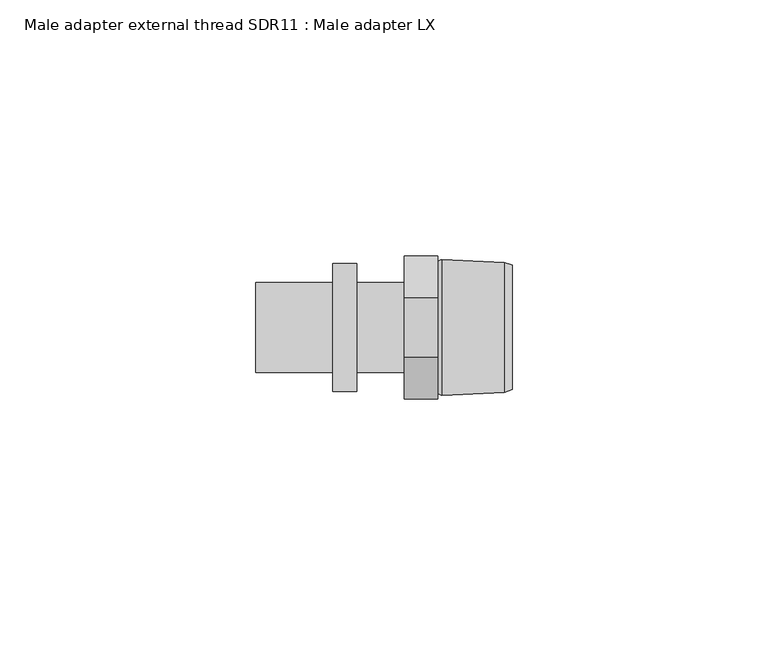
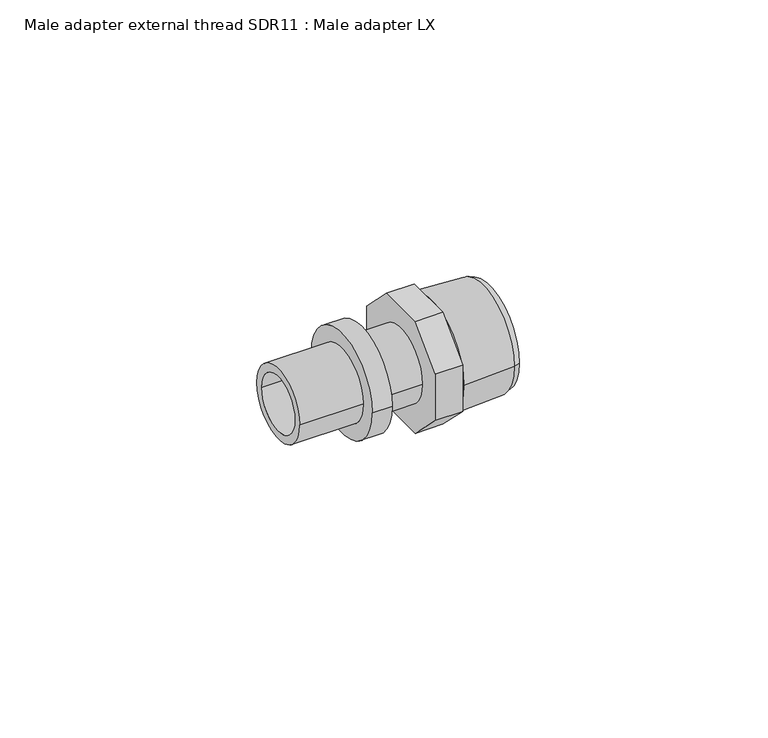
"""IFC4 building model written with IfcOpenShell, lengths in millimetres: pipe fitting geometry, Male adapter external thread SDR11 : Male adapter LX."""

import ifcopenshell
import ifcopenshell.guid

model = None  # the IFC model being written
_history = None  # IfcOwnerHistory: only IFC2X3 demands one
_inside = {}  # id of a spatial element -> (the spatial element, [elements in it])
_under = {}  # id of a project, library or spatial element -> (it, [spatial elements below it])
_declared = {}  # id of a project -> (the project, [libraries it declares])
_typed = {}  # id of a type object -> (the type object, [elements of that type])
_made_of = {}  # id of a material, layer set ... -> (it, [elements and type objects made of it])


def new_model(schema):
    """Start an empty IFC model of exactly this schema.

    Asked for "IFC4X3", IfcOpenShell would pick the latest addendum, in which some entities
    have other attributes; the version numbers below select the first issue.
    IFC2X3 requires an IfcOwnerHistory on every rooted entity: one is made here for all.
    """
    global model, _history
    if schema == "IFC4X3":
        model = ifcopenshell.file(schema_version=(4, 3, 0, 0))
    else:
        model = ifcopenshell.file(schema=schema)
    _inside.clear()
    _under.clear()
    _declared.clear()
    _typed.clear()
    _made_of.clear()
    _history = None
    if model.schema == "IFC2X3":
        org = make("IfcOrganization", Name="unknown")
        user = make(
            "IfcPersonAndOrganization",
            ThePerson=make("IfcPerson", FamilyName="unknown"),
            TheOrganization=org,
        )
        app = make(
            "IfcApplication",
            ApplicationDeveloper=org,
            Version="unknown",
            ApplicationFullName="unknown",
            ApplicationIdentifier="unknown",
        )
        _history = make(
            "IfcOwnerHistory",
            OwningUser=user,
            OwningApplication=app,
            ChangeAction="ADDED",
            CreationDate=0,
        )
    return model


def make(cls, **values):
    """One entity of the class cls with the attributes given. An attribute that is None is left unset."""
    return model.create_entity(
        cls, **{name: value for name, value in values.items() if value is not None}
    )


def rooted(cls, **values):
    """An entity with a GlobalId (a new one), such as an element, a storey or a relation."""
    return make(cls, GlobalId=ifcopenshell.guid.new(), OwnerHistory=_history, **values)


def si_unit(unit_type, name, prefix=None):
    """IfcSIUnit, for example si_unit("LENGTHUNIT", "METRE", prefix="MILLI")."""
    return make("IfcSIUnit", UnitType=unit_type, Prefix=prefix, Name=name)


def assignment(units):
    """IfcUnitAssignment: the units of a project."""
    return None if units is None else make("IfcUnitAssignment", Units=units)


def point(xyz):
    """IfcCartesianPoint."""
    return None if xyz is None else make("IfcCartesianPoint", Coordinates=xyz)


def direction(xyz):
    """IfcDirection."""
    return None if xyz is None else make("IfcDirection", DirectionRatios=xyz)


def frame(location, z_axis=None, x_axis=None):
    """IfcAxis2Placement3D, a coordinate frame: its origin and axes. An axis left out is left unset."""
    return make(
        "IfcAxis2Placement3D",
        Location=point(location),
        Axis=direction(z_axis),
        RefDirection=direction(x_axis),
    )


def origin():
    """The frame at (0, 0, 0) with its axes left unset."""
    return frame((0.0, 0.0, 0.0))


def place(relative_to, where):
    """IfcLocalPlacement: puts the frame where relative to a parent placement (None: the world)."""
    return make(
        "IfcLocalPlacement", PlacementRelTo=relative_to, RelativePlacement=where
    )


def context(
    kind, dimensions, precision=None, world=None, true_north=None, identifier=None
):
    """IfcGeometricRepresentationContext, for example the 3D "Model" context."""
    return make(
        "IfcGeometricRepresentationContext",
        ContextIdentifier=identifier,
        ContextType=kind,
        CoordinateSpaceDimension=dimensions,
        Precision=precision,
        WorldCoordinateSystem=world,
        TrueNorth=true_north,
    )


def project(units=None, contexts=None):
    """IfcProject with its units and contexts."""
    return rooted(
        "IfcProject",
        Name="project",
        RepresentationContexts=contexts,
        UnitsInContext=assignment(units),
    )


def spatial(cls, under=None, at=None, **own):
    """A site, building, storey or space (cls), placed at a placement, below another one or the project."""
    s = rooted(cls, ObjectPlacement=at, **own)
    if under is not None:
        _under.setdefault(under.id(), (under, []))[1].append(s)
    return s


def polyline(points):
    """IfcPolyline through the points."""
    return make("IfcPolyline", Points=[point(p) for p in points])


def circle_curve(where, radius):
    """IfcCircle in the frame where."""
    return make("IfcCircle", Position=where, Radius=radius)


def outline(outer, holes=None, kind="AREA"):
    """IfcArbitraryClosedProfileDef: a profile drawn as a closed curve; with holes, ...WithVoids."""
    if holes is None:
        return make("IfcArbitraryClosedProfileDef", ProfileType=kind, OuterCurve=outer)
    return make(
        "IfcArbitraryProfileDefWithVoids",
        ProfileType=kind,
        OuterCurve=outer,
        InnerCurves=holes,
    )


def extrude(swept, where, along, depth):
    """IfcExtrudedAreaSolid: the profile swept, set in the frame where, extruded along a direction by depth."""
    return make(
        "IfcExtrudedAreaSolid",
        SweptArea=swept,
        Position=where,
        ExtrudedDirection=direction(along),
        Depth=depth,
    )


def shape(context_of_items, identifier, shape_type, items):
    """IfcShapeRepresentation: the items that make up one representation, for example the "Body"."""
    return make(
        "IfcShapeRepresentation",
        ContextOfItems=context_of_items,
        RepresentationIdentifier=identifier,
        RepresentationType=shape_type,
        Items=items,
    )


def source(mapping_origin, context_of_items, identifier, shape_type, items):
    """IfcRepresentationMap: a shape defined once, which mapped items show again and again."""
    return make(
        "IfcRepresentationMap",
        MappingOrigin=mapping_origin,
        MappedRepresentation=shape(context_of_items, identifier, shape_type, items),
    )


def transform(
    local_origin,
    x_axis=None,
    y_axis=None,
    z_axis=None,
    scale=None,
    scale2=None,
    scale3=None,
    uniform=True,
):
    """IfcCartesianTransformationOperator3D, or its non-uniform kind. x_axis, y_axis, z_axis: its Axis1, 2, 3."""
    if uniform:
        return make(
            "IfcCartesianTransformationOperator3D",
            Axis1=direction(x_axis),
            Axis2=direction(y_axis),
            LocalOrigin=point(local_origin),
            Scale=scale,
            Axis3=direction(z_axis),
        )
    return make(
        "IfcCartesianTransformationOperator3DnonUniform",
        Axis1=direction(x_axis),
        Axis2=direction(y_axis),
        LocalOrigin=point(local_origin),
        Scale=scale,
        Axis3=direction(z_axis),
        Scale2=scale2,
        Scale3=scale3,
    )


def mapped(mapping_source, mapping_target):
    """IfcMappedItem: shows the shape of a source again, moved by a transform."""
    return make(
        "IfcMappedItem", MappingSource=mapping_source, MappingTarget=mapping_target
    )


def made_of(thing, what):
    """Note that an element or type object is made of a material, layer set ...; save() writes the relation."""
    if what is not None:
        _made_of.setdefault(what.id(), (what, []))[1].append(thing)
    return thing


def element(
    cls,
    number,
    at=None,
    inside=None,
    cuts=None,
    type_object=None,
    material=None,
    context=None,
    identifier="Body",
    shape_type=None,
    held_by="IfcProductDefinitionShape",
    body=None,
    shapes=None,
    **own,
):
    """One element of the class cls, such as IfcWall. Its Tag is "e" and its number.

    at: its placement. inside: the storey or other place that contains it. cuts: it is an
    opening in that element (IfcRelVoidsElement). A single representation is given by context,
    identifier, shape_type and body (its items); several are given by shapes. held_by: the class
    of the entity that holds the representations. save() writes the other relations.
    """
    e = rooted(cls, Tag="e%d" % number, ObjectPlacement=at, **own)
    if body is not None:
        shapes = [shape(context, identifier, shape_type, body)]
    if shapes is not None:
        e.Representation = make(held_by, Representations=shapes)
    if inside is not None:
        _inside.setdefault(inside.id(), (inside, []))[1].append(e)
    if cuts is not None:
        rooted(
            "IfcRelVoidsElement", RelatingBuildingElement=cuts, RelatedOpeningElement=e
        )
    if type_object is not None:
        _typed.setdefault(type_object.id(), (type_object, []))[1].append(e)
    return made_of(e, material)


def aggregate(whole, parts):
    """IfcRelAggregates: a whole, such as a stair, and the parts it consists of."""
    return rooted("IfcRelAggregates", RelatingObject=whole, RelatedObjects=parts)


def save(model, path):
    """Write the relations noted so far, then the file.

    IfcRelAggregates (storeys below a building ...), IfcRelContainedInSpatialStructure (elements
    in a storey), IfcRelDefinesByType, IfcRelAssociatesMaterial and IfcRelDeclares: one each for
    every whole, place, type object, material and project.
    """
    for whole, parts in _under.values():
        aggregate(whole, parts)
    for where, things in _inside.values():
        rooted(
            "IfcRelContainedInSpatialStructure",
            RelatedElements=things,
            RelatingStructure=where,
        )
    for kind, things in _typed.values():
        rooted("IfcRelDefinesByType", RelatedObjects=things, RelatingType=kind)
    for what, things in _made_of.values():
        rooted("IfcRelAssociatesMaterial", RelatedObjects=things, RelatingMaterial=what)
    for by, libraries in _declared.values():
        rooted("IfcRelDeclares", RelatingContext=by, RelatedDefinitions=libraries)
    model.write(path)


def plane_surface(at):
    """IfcPlane: the flat surface through the origin of the frame at, square to its z axis."""
    return make("IfcPlane", Position=at)


def cylinder_surface(at, radius):
    """IfcCylindricalSurface: all points at the distance radius from the z axis of the frame at."""
    return make("IfcCylindricalSurface", Position=at, Radius=radius)


def revolved_surface(curve, axis_point, axis_direction):
    """IfcSurfaceOfRevolution: the curve turned about the line through axis_point along axis_direction."""
    return make(
        "IfcSurfaceOfRevolution",
        SweptCurve=make("IfcArbitraryOpenProfileDef", ProfileType="CURVE", Curve=curve),
        AxisPosition=make("IfcAxis1Placement", Location=point(axis_point), Axis=direction(axis_direction)),
    )


def advanced_brep(points, edges, surfaces, faces):
    """IfcAdvancedBrep: a solid bounded by faces that lie on surfaces and meet in shared edges.

    An edge is (start, end): straight between two places in points (the first is 0);
    or (start, end, curve); or (start, end, curve, False) where it runs against its curve.
    A face is (place in surfaces, loops), or (place, loops, False) where it looks against
    its surface's normal. A loop lists edges by number (the first is 1), with a minus sign
    where the edge is run from its end to its start. The first loop is the outer one.
    """
    corners = [point(p) for p in points]
    vertices = [make("IfcVertexPoint", VertexGeometry=c) for c in corners]
    made = []
    for start, end, *more in edges:
        made.append(
            make(
                "IfcEdgeCurve",
                EdgeStart=vertices[start],
                EdgeEnd=vertices[end],
                EdgeGeometry=more[0] if more else make("IfcPolyline", Points=[corners[start], corners[end]]),
                SameSense=more[1] if len(more) > 1 else True,
            )
        )
    hull = []
    for where, loops, *sense in faces:
        bounds = []
        for j, loop in enumerate(loops):
            ring = [make("IfcOrientedEdge", EdgeElement=made[abs(k) - 1], Orientation=k > 0) for k in loop]
            bounds.append(
                make(
                    "IfcFaceOuterBound" if j == 0 else "IfcFaceBound",
                    Bound=make("IfcEdgeLoop", EdgeList=ring),
                    Orientation=True,
                )
            )
        hull.append(make("IfcAdvancedFace", Bounds=bounds, FaceSurface=surfaces[where], SameSense=sense[0] if sense else True))
    return make("IfcAdvancedBrep", Outer=make("IfcClosedShell", CfsFaces=hull))


def male_adapter_external_thread_sdr11_male_adapter_lx_f4faac24(model_context):
    return source(origin(), model_context, "Body", "SolidModel", [
        advanced_brep(
        [(-14.0, 8.8, 0.0), (-14.0, -8.8, 0.0), (-29.0, -8.8, 0.0), (-29.0, 8.8, 0.0), (-9.3, 12.5, 0.0), (-9.3, -12.5, 0.0), (-14.0, -12.5, 0.0), (-14.0, 12.5, 0.0), (0.0, 8.8, 0.0), (0.0, -8.8, 0.0), (-9.3, -8.8, 0.0), (-9.3, 8.8, 0.0), (-29.0, 6.8, 0.0), (-29.0, -6.8, 0.0), (0.0, -6.8, 0.0), (0.0, 6.8, 0.0)],
        [
            (0, 1, circle_curve(frame((-14.0, 0.0, 0.0), z_axis=(-1.0, 0.0, 0.0), x_axis=(0.0, -1.0, 0.0)), 8.8)),
            (1, 2),
            (2, 3, circle_curve(frame((-29.0, 0.0, 0.0), z_axis=(1.0, 0.0, 0.0), x_axis=(0.0, -1.0, 0.0)), 8.8)),
            (3, 0),
            (4, 5, circle_curve(frame((-9.3, 0.0, 0.0), z_axis=(-1.0, 0.0, 0.0), x_axis=(0.0, -1.0, 0.0)), 12.5)),
            (5, 6),
            (6, 7, circle_curve(frame((-14.0, 0.0, 0.0), z_axis=(1.0, 0.0, 0.0), x_axis=(0.0, -1.0, 0.0)), 12.5)),
            (7, 4),
            (8, 9, circle_curve(frame((0.0, 0.0, 0.0), z_axis=(-1.0, 0.0, 0.0), x_axis=(0.0, -1.0, 0.0)), 8.8)),
            (9, 10),
            (10, 11, circle_curve(frame((-9.3, 0.0, 0.0), z_axis=(1.0, 0.0, 0.0), x_axis=(0.0, -1.0, 0.0)), 8.8)),
            (11, 8),
            (12, 13, circle_curve(frame((-29.0, 0.0, 0.0), z_axis=(-1.0, 0.0, 0.0), x_axis=(0.0, -1.0, 0.0)), 6.8)),
            (13, 14),
            (14, 15, circle_curve(frame((0.0, 0.0, 0.0), z_axis=(1.0, 0.0, 0.0), x_axis=(0.0, -1.0, 0.0)), 6.8)),
            (15, 12),
            (2, 3, circle_curve(frame((-29.0, 0.0, 0.0), z_axis=(-1.0, 0.0, 0.0), x_axis=(0.0, 1.0, 0.0)), 8.8)),
            (12, 13, circle_curve(frame((-29.0, 0.0, 0.0), z_axis=(1.0, 0.0, 0.0), x_axis=(0.0, 1.0, 0.0)), 6.8)),
            (1, 0, circle_curve(frame((-14.0, 0.0, 0.0), z_axis=(-1.0, 0.0, 0.0), x_axis=(0.0, 1.0, 0.0)), 8.8)),
            (6, 7, circle_curve(frame((-14.0, 0.0, 0.0), z_axis=(-1.0, 0.0, 0.0), x_axis=(0.0, 1.0, 0.0)), 12.5)),
            (5, 4, circle_curve(frame((-9.3, 0.0, 0.0), z_axis=(-1.0, 0.0, 0.0), x_axis=(0.0, 1.0, 0.0)), 12.5)),
            (10, 11, circle_curve(frame((-9.3, 0.0, 0.0), z_axis=(-1.0, 0.0, 0.0), x_axis=(0.0, 1.0, 0.0)), 8.8)),
            (9, 8, circle_curve(frame((0.0, 0.0, 0.0), z_axis=(-1.0, 0.0, 0.0), x_axis=(0.0, 1.0, 0.0)), 8.8)),
            (14, 15, circle_curve(frame((0.0, 0.0, 0.0), z_axis=(-1.0, 0.0, 0.0), x_axis=(0.0, 1.0, 0.0)), 6.8)),
        ],
        [
            cylinder_surface(frame((0.0, 0.0, 0.0), z_axis=(1.0, 0.0, 0.0), x_axis=(0.0, -1.0, 0.0)), 8.8),
            cylinder_surface(frame((0.0, 0.0, 0.0), z_axis=(1.0, 0.0, 0.0), x_axis=(0.0, -1.0, 0.0)), 12.5),
            revolved_surface(polyline([(0.0, -6.8, 0.0), (-29.0, -6.8, 0.0)]), (0.0, 0.0, 0.0), (1.0, 0.0, 0.0)),
            plane_surface(frame((-29.0, 0.0, 0.0), z_axis=(-1.0, 0.0, 0.0), x_axis=(0.0, 1.0, 0.0))),
            cylinder_surface(frame((0.0, 0.0, 0.0), z_axis=(1.0, 0.0, 0.0), x_axis=(0.0, 1.0, 0.0)), 8.8),
            plane_surface(frame((-14.0, 0.0, 0.0), z_axis=(-1.0, 0.0, 0.0), x_axis=(0.0, 1.0, 0.0))),
            cylinder_surface(frame((0.0, 0.0, 0.0), z_axis=(1.0, 0.0, 0.0), x_axis=(0.0, 1.0, 0.0)), 12.5),
            plane_surface(frame((-9.3, 0.0, 0.0), z_axis=(1.0, 0.0, 0.0), x_axis=(0.0, 1.0, 0.0))),
            plane_surface(frame((0.0, 0.0, 0.0), z_axis=(1.0, 0.0, 0.0), x_axis=(0.0, 1.0, 0.0))),
            revolved_surface(polyline([(0.0, 6.8, 0.0), (-29.0, 6.8, 0.0)]), (0.0, 0.0, 0.0), (1.0, 0.0, 0.0)),
        ],
        [
            (0, [[1, 2, 3, 4]]),
            (1, [[5, 6, 7, 8]]),
            (0, [[9, 10, 11, 12]]),
            (2, [[13, 14, 15, 16]]),
            (3, [[17, -3], [18, -13]]),
            (4, [[19, -4, -17, -2]]),
            (5, [[20, -7], [-19, -1]]),
            (6, [[21, -8, -20, -6]]),
            (7, [[-21, -5], [22, -11]]),
            (4, [[23, -12, -22, -10]]),
            (8, [[-23, -9], [24, -15]]),
            (9, [[-18, -16, -24, -14]]),
        ],
    ),
        advanced_brep(
        [(7.6032803, 9.0, 0.0), (7.6032803, -9.0, 0.0), (21.0, -9.0, 0.0), (21.0, 9.0, 0.0), (6.5, 7.8967197, 0.0), (6.5, -7.8967197, 0.0), (7.2406902, 13.3, 0.0), (7.2406902, -13.3, 0.0), (6.5, -12.95, 0.0), (6.5, 12.95, 0.0), (19.5000007, 12.7, 0.0), (19.5000007, -12.7, 0.0), (21.0, 12.15, 0.0), (21.0, -12.15, 0.0)],
        [
            (0, 1, circle_curve(frame((7.6032803, 0.0, 0.0), z_axis=(-1.0, 0.0, 0.0), x_axis=(0.0, -1.0, 0.0)), 9.0)),
            (1, 2),
            (2, 3, circle_curve(frame((21.0, 0.0, 0.0), z_axis=(1.0, 0.0, 0.0), x_axis=(0.0, -1.0, 0.0)), 9.0)),
            (3, 0),
            (4, 5, circle_curve(frame((6.5, 0.0, 0.0), z_axis=(-1.0, 0.0, 0.0), x_axis=(0.0, -1.0, 0.0)), 7.8967197)),
            (5, 1),
            (0, 4),
            (6, 7, circle_curve(frame((7.2406902, 0.0, 0.0), z_axis=(-1.0, 0.0, 0.0), x_axis=(0.0, -1.0, 0.0)), 13.3)),
            (7, 8),
            (8, 9, circle_curve(frame((6.5, 0.0, 0.0), z_axis=(1.0, 0.0, 0.0), x_axis=(0.0, -1.0, 0.0)), 12.95)),
            (9, 6),
            (10, 11, circle_curve(frame((19.5000007, 0.0, 0.0), z_axis=(-1.0, 0.0, 0.0), x_axis=(0.0, -1.0, 0.0)), 12.7)),
            (11, 7),
            (6, 10),
            (12, 13, circle_curve(frame((21.0, 0.0, 0.0), z_axis=(-1.0, 0.0, 0.0), x_axis=(0.0, -1.0, 0.0)), 12.15)),
            (13, 11),
            (10, 12),
            (1, 0, circle_curve(frame((7.6032803, 0.0, 0.0), z_axis=(-1.0, 0.0, 0.0), x_axis=(0.0, 1.0, 0.0)), 9.0)),
            (3, 2, circle_curve(frame((21.0, 0.0, 0.0), z_axis=(1.0, 0.0, 0.0), x_axis=(0.0, 1.0, 0.0)), 9.0)),
            (5, 4, circle_curve(frame((6.5, 0.0, 0.0), z_axis=(-1.0, 0.0, 0.0), x_axis=(0.0, 1.0, 0.0)), 7.8967197)),
            (8, 9, circle_curve(frame((6.5, 0.0, 0.0), z_axis=(-1.0, 0.0, 0.0), x_axis=(0.0, 1.0, 0.0)), 12.95)),
            (7, 6, circle_curve(frame((7.2406902, 0.0, 0.0), z_axis=(-1.0, 0.0, 0.0), x_axis=(0.0, 1.0, 0.0)), 13.3)),
            (11, 10, circle_curve(frame((19.5000007, 0.0, 0.0), z_axis=(-1.0, 0.0, 0.0), x_axis=(0.0, 1.0, 0.0)), 12.7)),
            (13, 12, circle_curve(frame((21.0, 0.0, 0.0), z_axis=(-1.0, 0.0, 0.0), x_axis=(0.0, 1.0, 0.0)), 12.15)),
        ],
        [
            revolved_surface(polyline([(21.0, -9.0, 0.0), (7.6032803, -9.0, 0.0)]), (0.0, 0.0, 0.0), (1.0, 0.0, 0.0)),
            revolved_surface(polyline([(7.6032803, -9.0, 0.0), (6.5, -7.8967197, 0.0)]), (0.0, 0.0, 0.0), (1.0, 0.0, 0.0)),
            revolved_surface(polyline([(6.5, -12.95, 0.0), (7.2406902, -13.3, 0.0)]), (0.0, 0.0, 0.0), (1.0, 0.0, 0.0)),
            revolved_surface(polyline([(7.2406902, -13.3, 0.0), (19.5000007, -12.7, 0.0)]), (0.0, 0.0, 0.0), (1.0, 0.0, 0.0)),
            revolved_surface(polyline([(19.5000007, -12.7, 0.0), (21.0, -12.15, 0.0)]), (0.0, 0.0, 0.0), (1.0, 0.0, 0.0)),
            revolved_surface(polyline([(21.0, 9.0, 0.0), (7.6032803, 9.0, 0.0)]), (0.0, 0.0, 0.0), (1.0, 0.0, 0.0)),
            revolved_surface(polyline([(7.6032803, 9.0, 0.0), (6.5, 7.8967197, 0.0)]), (0.0, 0.0, 0.0), (1.0, 0.0, 0.0)),
            plane_surface(frame((6.5, 0.0, 0.0), z_axis=(-1.0, 0.0, 0.0), x_axis=(0.0, 1.0, 0.0))),
            revolved_surface(polyline([(6.5, 12.95, 0.0), (7.2406902, 13.3, 0.0)]), (0.0, 0.0, 0.0), (1.0, 0.0, 0.0)),
            revolved_surface(polyline([(7.2406902, 13.3, 0.0), (19.5000007, 12.7, 0.0)]), (0.0, 0.0, 0.0), (1.0, 0.0, 0.0)),
            revolved_surface(polyline([(19.5000007, 12.7, 0.0), (21.0, 12.15, 0.0)]), (0.0, 0.0, 0.0), (1.0, 0.0, 0.0)),
            plane_surface(frame((21.0, 0.0, 0.0), z_axis=(1.0, 0.0, 0.0), x_axis=(0.0, 1.0, 0.0))),
        ],
        [
            (0, [[1, 2, 3, 4]]),
            (1, [[5, 6, -1, 7]]),
            (2, [[8, 9, 10, 11]]),
            (3, [[12, 13, -8, 14]]),
            (4, [[15, 16, -12, 17]]),
            (5, [[18, -4, 19, -2]]),
            (6, [[20, -7, -18, -6]]),
            (7, [[21, -10], [-20, -5]]),
            (8, [[22, -11, -21, -9]]),
            (9, [[23, -14, -22, -13]]),
            (10, [[24, -17, -23, -16]]),
            (11, [[-24, -15], [-19, -3]]),
        ],
    ),
        extrude(outline(polyline([(-14.0, 5.7989899), (-5.7989899, 14.0), (5.7989899, 14.0), (14.0, 5.7989899), (14.0, -5.7989899), (5.7989899, -14.0), (-5.7989899, -14.0), (-14.0, -5.7989899), (-14.0, 5.7989899)])), frame((0.0, 0.0, 0.0), z_axis=(1.0, 0.0, 0.0), x_axis=(0.0, 1.0, 0.0)), (0.0, 0.0, 1.0), 6.5),
    ])


if __name__ == "__main__":
    model = new_model("IFC4")
    model_context = context("Model", 3, world=origin())
    ifc_project = project(units=[si_unit("LENGTHUNIT", "METRE", prefix="MILLI")], contexts=[model_context])
    site = spatial("IfcSite", under=ifc_project)
    building = spatial("IfcBuilding", under=site)
    placement = place(None, origin())
    male_adapter_external_thread_sdr11_male_adapter_lx_shape = male_adapter_external_thread_sdr11_male_adapter_lx_f4faac24(model_context)
    element("IfcPipeFitting", 1, ObjectType="Male adapter external thread SDR11 : Male adapter LX", at=placement, inside=building, context=model_context, shape_type="MappedRepresentation", body=[
        mapped(male_adapter_external_thread_sdr11_male_adapter_lx_shape, transform((0.0, 0.0, 0.0), x_axis=(1.0, 0.0, 0.0), y_axis=(0.0, 1.0, 0.0), z_axis=(0.0, 0.0, 1.0))),
    ])
    save(model, "model.ifc")
